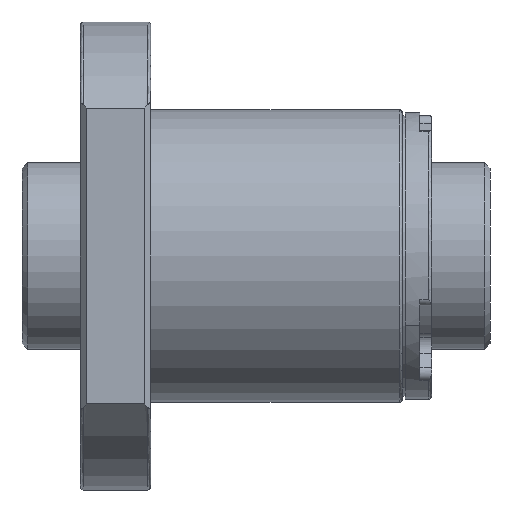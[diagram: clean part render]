
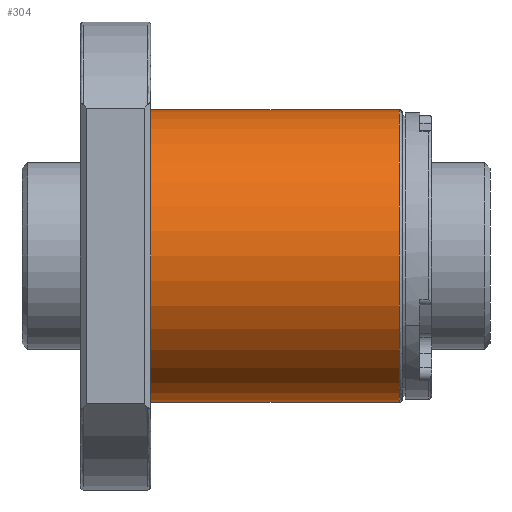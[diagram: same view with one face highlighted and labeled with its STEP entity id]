
A CAD part, front view. The second image highlights one B-rep face of the part: STEP entity #304.
In plain terms, the highlighted cylindrical face has radius 25 mm (diameter 50 mm), a partial arc.
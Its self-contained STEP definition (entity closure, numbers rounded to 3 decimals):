
#210 = EDGE_CURVE ( 'NONE', #229, #3135, #4387, .T. ) ;
#229 = VERTEX_POINT ( 'NONE', #4121 ) ;
#275 = CARTESIAN_POINT ( 'NONE',  ( 0., 0., -25. ) ) ;
#304 = ADVANCED_FACE ( 'NONE', ( #1172 ), #7281, .T. ) ;
#1077 = DIRECTION ( 'NONE',  ( -1., 0., 0. ) ) ;
#1172 = FACE_OUTER_BOUND ( 'NONE', #1283, .T. ) ;
#1225 = DIRECTION ( 'NONE',  ( 0., 0., 1. ) ) ;
#1283 = EDGE_LOOP ( 'NONE', ( #4134, #7355, #5159, #4344 ) ) ;
#1305 = VECTOR ( 'NONE', #1077, 1000. ) ;
#1583 = DIRECTION ( 'NONE',  ( -1., 0., 0. ) ) ;
#2431 = CARTESIAN_POINT ( 'NONE',  ( 0., 0., 0. ) ) ;
#2785 = CARTESIAN_POINT ( 'NONE',  ( 12., 0., 25. ) ) ;
#3135 = VERTEX_POINT ( 'NONE', #4390 ) ;
#3521 = CARTESIAN_POINT ( 'NONE',  ( 54.5, 0., 25. ) ) ;
#3771 = LINE ( 'NONE', #8557, #1305 ) ;
#3877 = CARTESIAN_POINT ( 'NONE',  ( 12., 0., 0. ) ) ;
#3943 = AXIS2_PLACEMENT_3D ( 'NONE', #3877, #6675, #1225 ) ;
#3988 = VERTEX_POINT ( 'NONE', #2785 ) ;
#4121 = CARTESIAN_POINT ( 'NONE',  ( 54.5, 0., -25. ) ) ;
#4134 = ORIENTED_EDGE ( 'NONE', *, *, #210, .F. ) ;
#4207 = EDGE_CURVE ( 'NONE', #6690, #3988, #3771, .T. ) ;
#4303 = AXIS2_PLACEMENT_3D ( 'NONE', #2431, #5162, #6545 ) ;
#4344 = ORIENTED_EDGE ( 'NONE', *, *, #4383, .T. ) ;
#4383 = EDGE_CURVE ( 'NONE', #3988, #3135, #5577, .T. ) ;
#4387 = LINE ( 'NONE', #275, #8343 ) ;
#4390 = CARTESIAN_POINT ( 'NONE',  ( 12., 0., -25. ) ) ;
#4567 = EDGE_CURVE ( 'NONE', #229, #6690, #6215, .T. ) ;
#4948 = DIRECTION ( 'NONE',  ( 0., 0., 1. ) ) ;
#5159 = ORIENTED_EDGE ( 'NONE', *, *, #4207, .T. ) ;
#5162 = DIRECTION ( 'NONE',  ( -1., 0., 0. ) ) ;
#5577 = CIRCLE ( 'NONE', #3943, 25. ) ;
#6215 = CIRCLE ( 'NONE', #6414, 25. ) ;
#6414 = AXIS2_PLACEMENT_3D ( 'NONE', #7668, #8337, #4948 ) ;
#6545 = DIRECTION ( 'NONE',  ( 0., 0., 1. ) ) ;
#6675 = DIRECTION ( 'NONE',  ( 1., 0., 0. ) ) ;
#6690 = VERTEX_POINT ( 'NONE', #3521 ) ;
#7281 = CYLINDRICAL_SURFACE ( 'NONE', #4303, 25. ) ;
#7355 = ORIENTED_EDGE ( 'NONE', *, *, #4567, .T. ) ;
#7668 = CARTESIAN_POINT ( 'NONE',  ( 54.5, 0., 0. ) ) ;
#8337 = DIRECTION ( 'NONE',  ( -1., 0., 0. ) ) ;
#8343 = VECTOR ( 'NONE', #1583, 1000. ) ;
#8557 = CARTESIAN_POINT ( 'NONE',  ( 0., 0., 25. ) ) ;
